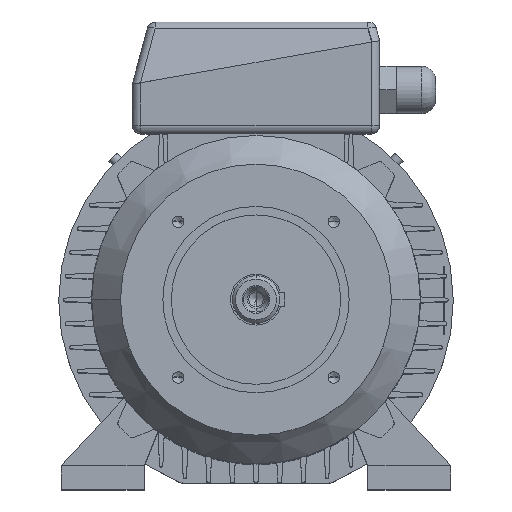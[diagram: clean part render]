
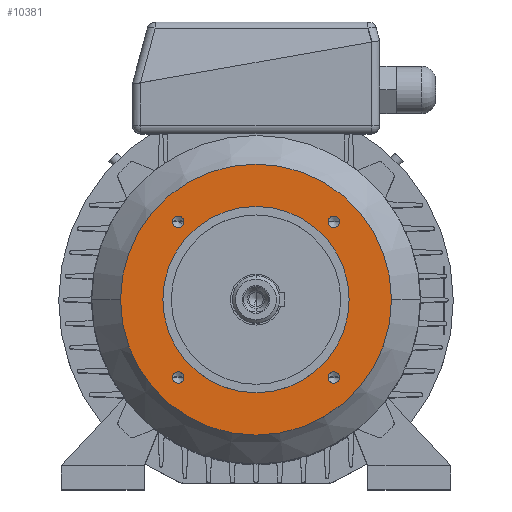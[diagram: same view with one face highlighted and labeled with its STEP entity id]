
A CAD part, top view. The second image highlights one B-rep face of the part: STEP entity #10381.
In plain terms, the highlighted planar face has unit normal (0, 0, 1).
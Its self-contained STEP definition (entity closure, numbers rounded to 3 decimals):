
#110 = CARTESIAN_POINT ( 'NONE',  ( 49.362, -45.962, 51. ) ) ;
#254 = CIRCLE ( 'NONE', #255, 3.4 ) ;
#255 = AXIS2_PLACEMENT_3D ( 'NONE', #256, #257, #258 ) ;
#256 = CARTESIAN_POINT ( 'NONE',  ( 45.962, -45.962, 51. ) ) ;
#257 = DIRECTION ( 'NONE',  ( 0., 0., 1. ) ) ;
#258 = DIRECTION ( 'NONE',  ( 1., 0., 0. ) ) ;
#453 = EDGE_LOOP ( 'NONE', ( #15163, #14574 ) ) ;
#738 = EDGE_CURVE ( 'NONE', #13958, #8235, #11411, .T. ) ;
#1044 = CIRCLE ( 'NONE', #1045, 3.4 ) ;
#1045 = AXIS2_PLACEMENT_3D ( 'NONE', #1046, #1047, #1048 ) ;
#1046 = CARTESIAN_POINT ( 'NONE',  ( -45.962, -45.962, 51. ) ) ;
#1047 = DIRECTION ( 'NONE',  ( 0., 0., 1. ) ) ;
#1048 = DIRECTION ( 'NONE',  ( 1., 0., 0. ) ) ;
#1074 = CARTESIAN_POINT ( 'NONE',  ( 80., 0., 51. ) ) ;
#1157 = CIRCLE ( 'NONE', #1158, 80. ) ;
#1158 = AXIS2_PLACEMENT_3D ( 'NONE', #1159, #1173, #1174 ) ;
#1159 = CARTESIAN_POINT ( 'NONE',  ( 0., 0., 51. ) ) ;
#1161 = ORIENTED_EDGE ( 'NONE', *, *, #738, .T. ) ;
#1173 = DIRECTION ( 'NONE',  ( 0., 0., 1. ) ) ;
#1174 = DIRECTION ( 'NONE',  ( 1., 0., 0. ) ) ;
#1570 = CARTESIAN_POINT ( 'NONE',  ( -42.562, -45.962, 51. ) ) ;
#1724 = CIRCLE ( 'NONE', #1725, 3.4 ) ;
#1725 = AXIS2_PLACEMENT_3D ( 'NONE', #1726, #1727, #1728 ) ;
#1726 = CARTESIAN_POINT ( 'NONE',  ( -45.962, -45.962, 51. ) ) ;
#1727 = DIRECTION ( 'NONE',  ( 0., 0., 1. ) ) ;
#1728 = DIRECTION ( 'NONE',  ( 1., 0., 0. ) ) ;
#1762 = ORIENTED_EDGE ( 'NONE', *, *, #8389, .T. ) ;
#2382 = EDGE_LOOP ( 'NONE', ( #1762, #1161 ) ) ;
#2455 = CARTESIAN_POINT ( 'NONE',  ( -49.362, -45.962, 51. ) ) ;
#2660 = ORIENTED_EDGE ( 'NONE', *, *, #10831, .F. ) ;
#3856 = ORIENTED_EDGE ( 'NONE', *, *, #5203, .F. ) ;
#4393 = CIRCLE ( 'NONE', #4394, 3.4 ) ;
#4394 = AXIS2_PLACEMENT_3D ( 'NONE', #4395, #4396, #4397 ) ;
#4395 = CARTESIAN_POINT ( 'NONE',  ( 45.962, 45.962, 51. ) ) ;
#4396 = DIRECTION ( 'NONE',  ( 0., 0., 1. ) ) ;
#4397 = DIRECTION ( 'NONE',  ( 1., 0., 0. ) ) ;
#4446 = EDGE_CURVE ( 'NONE', #4949, #6210, #13598, .T. ) ;
#4867 = ORIENTED_EDGE ( 'NONE', *, *, #4446, .F. ) ;
#4949 = VERTEX_POINT ( 'NONE', #13833 ) ;
#5062 = FACE_BOUND ( 'NONE', #10316, .T. ) ;
#5063 = FACE_OUTER_BOUND ( 'NONE', #2382, .T. ) ;
#5067 = FACE_BOUND ( 'NONE', #453, .T. ) ;
#5068 = FACE_BOUND ( 'NONE', #13875, .T. ) ;
#5069 = FACE_BOUND ( 'NONE', #7341, .T. ) ;
#5070 = FACE_BOUND ( 'NONE', #5447, .T. ) ;
#5071 = PLANE ( 'NONE',  #5072 ) ;
#5072 = AXIS2_PLACEMENT_3D ( 'NONE', #5073, #5074, #5075 ) ;
#5073 = CARTESIAN_POINT ( 'NONE',  ( 0., 80., 51. ) ) ;
#5074 = DIRECTION ( 'NONE',  ( 0., 0., -1. ) ) ;
#5075 = DIRECTION ( 'NONE',  ( -1., 0., 0. ) ) ;
#5203 = EDGE_CURVE ( 'NONE', #6210, #4949, #13965, .T. ) ;
#5447 = EDGE_LOOP ( 'NONE', ( #4867, #3856 ) ) ;
#5732 = ORIENTED_EDGE ( 'NONE', *, *, #8117, .F. ) ;
#5744 = CARTESIAN_POINT ( 'NONE',  ( -55., 0., 51. ) ) ;
#5834 = CARTESIAN_POINT ( 'NONE',  ( 55., 0., 51. ) ) ;
#5868 = CARTESIAN_POINT ( 'NONE',  ( 49.362, 45.962, 51. ) ) ;
#5971 = CIRCLE ( 'NONE', #5972, 55. ) ;
#5972 = AXIS2_PLACEMENT_3D ( 'NONE', #5973, #5974, #5975 ) ;
#5973 = CARTESIAN_POINT ( 'NONE',  ( 0., 0., 51. ) ) ;
#5974 = DIRECTION ( 'NONE',  ( 0., 0., 1. ) ) ;
#5975 = DIRECTION ( 'NONE',  ( 1., 0., 0. ) ) ;
#6044 = CIRCLE ( 'NONE', #6045, 3.4 ) ;
#6045 = AXIS2_PLACEMENT_3D ( 'NONE', #6046, #6047, #6048 ) ;
#6046 = CARTESIAN_POINT ( 'NONE',  ( 45.962, 45.962, 51. ) ) ;
#6047 = DIRECTION ( 'NONE',  ( 0., 0., 1. ) ) ;
#6048 = DIRECTION ( 'NONE',  ( 1., 0., 0. ) ) ;
#6210 = VERTEX_POINT ( 'NONE', #14527 ) ;
#6321 = EDGE_CURVE ( 'NONE', #7864, #13605, #14584, .T. ) ;
#6608 = CARTESIAN_POINT ( 'NONE',  ( 42.562, 45.962, 51. ) ) ;
#6747 = ORIENTED_EDGE ( 'NONE', *, *, #6321, .F. ) ;
#7341 = EDGE_LOOP ( 'NONE', ( #6747, #5732 ) ) ;
#7618 = CARTESIAN_POINT ( 'NONE',  ( 42.562, -45.962, 51. ) ) ;
#7619 = ORIENTED_EDGE ( 'NONE', *, *, #8868, .F. ) ;
#7828 = CARTESIAN_POINT ( 'NONE',  ( -80., 0., 51. ) ) ;
#7864 = VERTEX_POINT ( 'NONE', #110 ) ;
#7941 = CIRCLE ( 'NONE', #7942, 55. ) ;
#7942 = AXIS2_PLACEMENT_3D ( 'NONE', #7943, #7944, #7945 ) ;
#7943 = CARTESIAN_POINT ( 'NONE',  ( 0., 0., 51. ) ) ;
#7944 = DIRECTION ( 'NONE',  ( 0., 0., 1. ) ) ;
#7945 = DIRECTION ( 'NONE',  ( 1., 0., 0. ) ) ;
#8117 = EDGE_CURVE ( 'NONE', #13605, #7864, #254, .T. ) ;
#8165 = EDGE_CURVE ( 'NONE', #8808, #9174, #1044, .T. ) ;
#8235 = VERTEX_POINT ( 'NONE', #1074 ) ;
#8389 = EDGE_CURVE ( 'NONE', #8235, #13958, #1157, .T. ) ;
#8808 = VERTEX_POINT ( 'NONE', #1570 ) ;
#8868 = EDGE_CURVE ( 'NONE', #9174, #8808, #1724, .T. ) ;
#9174 = VERTEX_POINT ( 'NONE', #2455 ) ;
#10049 = EDGE_CURVE ( 'NONE', #10776, #11857, #4393, .T. ) ;
#10151 = ORIENTED_EDGE ( 'NONE', *, *, #10049, .F. ) ;
#10316 = EDGE_LOOP ( 'NONE', ( #10151, #2660 ) ) ;
#10381 = ADVANCED_FACE ( 'NONE', ( #5062, #5063, #5067, #5068, #5069, #5070 ), #5071, .F. ) ;
#10685 = VERTEX_POINT ( 'NONE', #5744 ) ;
#10743 = VERTEX_POINT ( 'NONE', #5834 ) ;
#10776 = VERTEX_POINT ( 'NONE', #5868 ) ;
#10805 = EDGE_CURVE ( 'NONE', #10743, #10685, #5971, .T. ) ;
#10831 = EDGE_CURVE ( 'NONE', #11857, #10776, #6044, .T. ) ;
#11411 = CIRCLE ( 'NONE', #11412, 80. ) ;
#11412 = AXIS2_PLACEMENT_3D ( 'NONE', #11413, #11414, #11415 ) ;
#11413 = CARTESIAN_POINT ( 'NONE',  ( 0., 0., 51. ) ) ;
#11414 = DIRECTION ( 'NONE',  ( 0., 0., 1. ) ) ;
#11415 = DIRECTION ( 'NONE',  ( 1., 0., 0. ) ) ;
#11857 = VERTEX_POINT ( 'NONE', #6608 ) ;
#13094 = ORIENTED_EDGE ( 'NONE', *, *, #8165, .F. ) ;
#13598 = CIRCLE ( 'NONE', #13599, 3.4 ) ;
#13599 = AXIS2_PLACEMENT_3D ( 'NONE', #13600, #13601, #13611 ) ;
#13600 = CARTESIAN_POINT ( 'NONE',  ( -45.962, 45.962, 51. ) ) ;
#13601 = DIRECTION ( 'NONE',  ( 0., 0., 1. ) ) ;
#13605 = VERTEX_POINT ( 'NONE', #7618 ) ;
#13611 = DIRECTION ( 'NONE',  ( 1., 0., 0. ) ) ;
#13833 = CARTESIAN_POINT ( 'NONE',  ( -42.562, 45.962, 51. ) ) ;
#13875 = EDGE_LOOP ( 'NONE', ( #13094, #7619 ) ) ;
#13958 = VERTEX_POINT ( 'NONE', #7828 ) ;
#13965 = CIRCLE ( 'NONE', #13966, 3.4 ) ;
#13966 = AXIS2_PLACEMENT_3D ( 'NONE', #13967, #13968, #13969 ) ;
#13967 = CARTESIAN_POINT ( 'NONE',  ( -45.962, 45.962, 51. ) ) ;
#13968 = DIRECTION ( 'NONE',  ( 0., 0., 1. ) ) ;
#13969 = DIRECTION ( 'NONE',  ( 1., 0., 0. ) ) ;
#14152 = EDGE_CURVE ( 'NONE', #10685, #10743, #7941, .T. ) ;
#14527 = CARTESIAN_POINT ( 'NONE',  ( -49.362, 45.962, 51. ) ) ;
#14574 = ORIENTED_EDGE ( 'NONE', *, *, #14152, .F. ) ;
#14584 = CIRCLE ( 'NONE', #14585, 3.4 ) ;
#14585 = AXIS2_PLACEMENT_3D ( 'NONE', #14586, #14587, #14588 ) ;
#14586 = CARTESIAN_POINT ( 'NONE',  ( 45.962, -45.962, 51. ) ) ;
#14587 = DIRECTION ( 'NONE',  ( 0., 0., 1. ) ) ;
#14588 = DIRECTION ( 'NONE',  ( 1., 0., 0. ) ) ;
#15163 = ORIENTED_EDGE ( 'NONE', *, *, #10805, .F. ) ;
